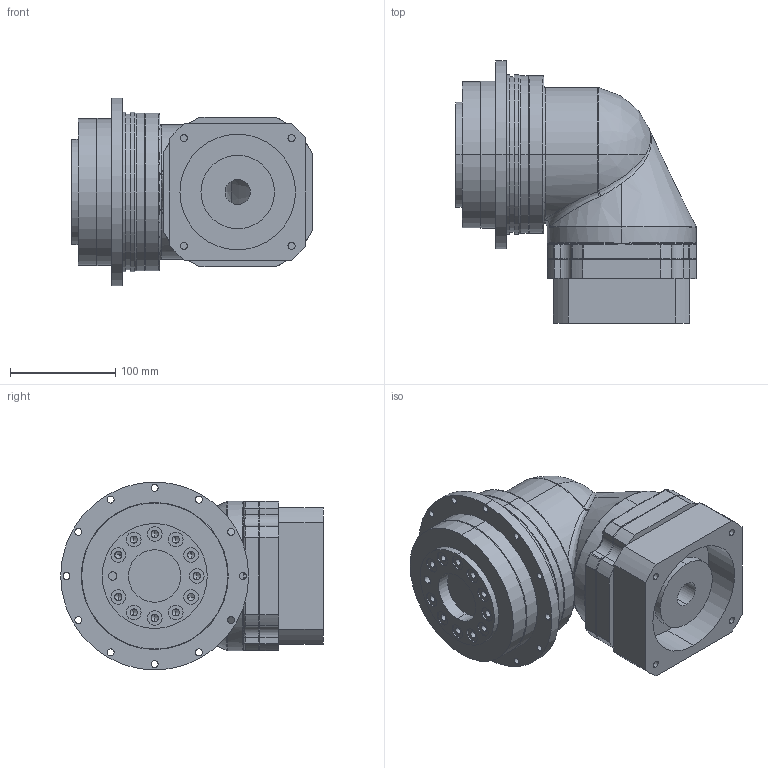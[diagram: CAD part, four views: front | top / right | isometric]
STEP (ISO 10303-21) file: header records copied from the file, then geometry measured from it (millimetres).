
FILE_DESCRIPTION (( 'STEP AP214' ), '1' );
FILE_NAME ('WADR140-L1(3KW)外形图(35-81-114.3-200-M12).STEP', '2020-11-02T07:54:35', ( '微软用户' ), ( '微软中国' ), 'SwSTEP 2.0', 'SolidWorks 2014', '' );
FILE_SCHEMA (( 'AUTOMOTIVE_DESIGN' ));
Length unit declared in the file: millimetre
Products named in the file (2): WADR140-L1(3KW)俋倛芞(35-81-114.3-200-M12)
Bounding box: 229 x 250 x 179 mm (x, y, z)
Volume: 2660848 mm3; surface area: 359292.8 mm2
Topology: 3 solids, 3 shells, 501 faces, 1178 edges, 672 vertices
Faces by surface type: cylinder 228, bspline 143, plane 90, cone 40
Entity records: 19192 total; most frequent: CARTESIAN_POINT 8354, DIRECTION 2284, ORIENTED_EDGE 2238, EDGE_CURVE 1119, AXIS2_PLACEMENT_3D 961, VERTEX_POINT 672, CIRCLE 601, EDGE_LOOP 593
